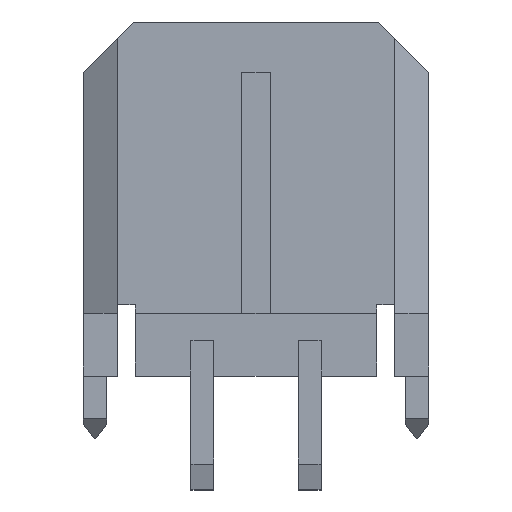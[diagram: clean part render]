
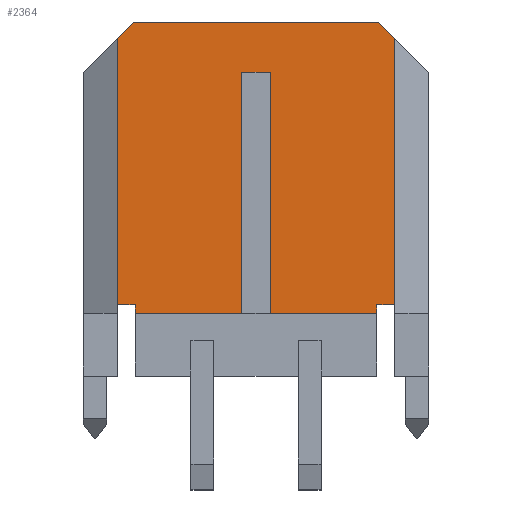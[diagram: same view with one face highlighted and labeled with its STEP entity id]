
A CAD part, top view. The second image highlights one B-rep face of the part: STEP entity #2364.
In plain terms, the highlighted planar face has unit normal (0, 0, 1).
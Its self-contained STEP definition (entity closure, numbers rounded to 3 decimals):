
#357=DIRECTION('',(-1.,0.,0.));
#358=VECTOR('',#357,0.5);
#359=CARTESIAN_POINT('',(3.875,-2.95,1.97));
#360=LINE('',#359,#358);
#361=DIRECTION('',(0.,1.,0.));
#362=VECTOR('',#361,0.25);
#363=CARTESIAN_POINT('',(3.375,-3.2,1.97));
#364=LINE('',#363,#362);
#365=DIRECTION('',(1.,0.,0.));
#366=VECTOR('',#365,2.975);
#367=CARTESIAN_POINT('',(0.4,-3.2,1.97));
#368=LINE('',#367,#366);
#369=DIRECTION('',(0.,1.,0.));
#370=VECTOR('',#369,6.75);
#371=CARTESIAN_POINT('',(0.4,-3.2,1.97));
#372=LINE('',#371,#370);
#373=DIRECTION('',(1.,0.,0.));
#374=VECTOR('',#373,0.8);
#375=CARTESIAN_POINT('',(-0.4,3.55,1.97));
#376=LINE('',#375,#374);
#377=DIRECTION('',(0.,1.,0.));
#378=VECTOR('',#377,6.75);
#379=CARTESIAN_POINT('',(-0.4,-3.2,1.97));
#380=LINE('',#379,#378);
#381=DIRECTION('',(1.,0.,0.));
#382=VECTOR('',#381,2.975);
#383=CARTESIAN_POINT('',(-3.375,-3.2,1.97));
#384=LINE('',#383,#382);
#385=DIRECTION('',(0.,1.,0.));
#386=VECTOR('',#385,0.25);
#387=CARTESIAN_POINT('',(-3.375,-3.2,1.97));
#388=LINE('',#387,#386);
#389=DIRECTION('',(1.,0.,0.));
#390=VECTOR('',#389,0.5);
#391=CARTESIAN_POINT('',(-3.875,-2.95,1.97));
#392=LINE('',#391,#390);
#393=DIRECTION('',(0.,-1.,0.));
#394=VECTOR('',#393,7.45);
#395=CARTESIAN_POINT('',(-3.875,4.5,1.97));
#396=LINE('',#395,#394);
#397=DIRECTION('',(-0.707,-0.707,0.));
#398=VECTOR('',#397,0.636);
#399=CARTESIAN_POINT('',(-3.425,4.95,1.97));
#400=LINE('',#399,#398);
#401=DIRECTION('',(1.,0.,0.));
#402=VECTOR('',#401,6.85);
#403=CARTESIAN_POINT('',(-3.425,4.95,1.97));
#404=LINE('',#403,#402);
#405=DIRECTION('',(-0.707,0.707,0.));
#406=VECTOR('',#405,0.636);
#407=CARTESIAN_POINT('',(3.875,4.5,1.97));
#408=LINE('',#407,#406);
#409=DIRECTION('',(0.,-1.,0.));
#410=VECTOR('',#409,7.45);
#411=CARTESIAN_POINT('',(3.875,4.5,1.97));
#412=LINE('',#411,#410);
#1423=CARTESIAN_POINT('',(-3.425,4.95,1.97));
#1424=CARTESIAN_POINT('',(3.425,4.95,1.97));
#1425=VERTEX_POINT('',#1423);
#1426=VERTEX_POINT('',#1424);
#1591=CARTESIAN_POINT('',(-0.4,3.55,1.97));
#1592=CARTESIAN_POINT('',(0.4,3.55,1.97));
#1593=VERTEX_POINT('',#1591);
#1594=VERTEX_POINT('',#1592);
#1595=CARTESIAN_POINT('',(-0.4,-3.2,1.97));
#1596=VERTEX_POINT('',#1595);
#1597=CARTESIAN_POINT('',(0.4,-3.2,1.97));
#1598=VERTEX_POINT('',#1597);
#1696=CARTESIAN_POINT('',(3.875,-2.95,1.97));
#1698=VERTEX_POINT('',#1696);
#1699=CARTESIAN_POINT('',(3.375,-2.95,1.97));
#1700=VERTEX_POINT('',#1699);
#1701=CARTESIAN_POINT('',(3.375,-3.2,1.97));
#1702=VERTEX_POINT('',#1701);
#1703=CARTESIAN_POINT('',(-3.375,-3.2,1.97));
#1704=CARTESIAN_POINT('',(-3.375,-2.95,1.97));
#1705=VERTEX_POINT('',#1703);
#1706=VERTEX_POINT('',#1704);
#1707=CARTESIAN_POINT('',(-3.875,-2.95,1.97));
#1708=VERTEX_POINT('',#1707);
#1763=CARTESIAN_POINT('',(-3.875,4.5,1.97));
#1764=VERTEX_POINT('',#1763);
#1765=CARTESIAN_POINT('',(3.875,4.5,1.97));
#1766=VERTEX_POINT('',#1765);
#2330=CARTESIAN_POINT('',(-4.825,4.95,1.97));
#2331=DIRECTION('',(0.,0.,1.));
#2332=DIRECTION('',(0.,-1.,0.));
#2333=AXIS2_PLACEMENT_3D('',#2330,#2331,#2332);
#2334=PLANE('',#2333);
#2336=ORIENTED_EDGE('',*,*,#2335,.T.);
#2337=ORIENTED_EDGE('',*,*,#2311,.F.);
#2339=ORIENTED_EDGE('',*,*,#2338,.F.);
#2341=ORIENTED_EDGE('',*,*,#2340,.T.);
#2343=ORIENTED_EDGE('',*,*,#2342,.F.);
#2345=ORIENTED_EDGE('',*,*,#2344,.F.);
#2347=ORIENTED_EDGE('',*,*,#2346,.F.);
#2349=ORIENTED_EDGE('',*,*,#2348,.T.);
#2351=ORIENTED_EDGE('',*,*,#2350,.F.);
#2353=ORIENTED_EDGE('',*,*,#2352,.F.);
#2355=ORIENTED_EDGE('',*,*,#2354,.F.);
#2357=ORIENTED_EDGE('',*,*,#2356,.T.);
#2359=ORIENTED_EDGE('',*,*,#2358,.F.);
#2361=ORIENTED_EDGE('',*,*,#2360,.T.);
#2362=EDGE_LOOP('',(#2336,#2337,#2339,#2341,#2343,#2345,#2347,#2349,#2351,#2353,
#2355,#2357,#2359,#2361));
#2363=FACE_OUTER_BOUND('',#2362,.F.);
#2364=ADVANCED_FACE('',(#2363),#2334,.T.);
#2311=EDGE_CURVE('',#1702,#1700,#364,.T.);
#2335=EDGE_CURVE('',#1698,#1700,#360,.T.);
#2338=EDGE_CURVE('',#1598,#1702,#368,.T.);
#2340=EDGE_CURVE('',#1598,#1594,#372,.T.);
#2342=EDGE_CURVE('',#1593,#1594,#376,.T.);
#2344=EDGE_CURVE('',#1596,#1593,#380,.T.);
#2346=EDGE_CURVE('',#1705,#1596,#384,.T.);
#2348=EDGE_CURVE('',#1705,#1706,#388,.T.);
#2350=EDGE_CURVE('',#1708,#1706,#392,.T.);
#2352=EDGE_CURVE('',#1764,#1708,#396,.T.);
#2354=EDGE_CURVE('',#1425,#1764,#400,.T.);
#2356=EDGE_CURVE('',#1425,#1426,#404,.T.);
#2358=EDGE_CURVE('',#1766,#1426,#408,.T.);
#2360=EDGE_CURVE('',#1766,#1698,#412,.T.);
